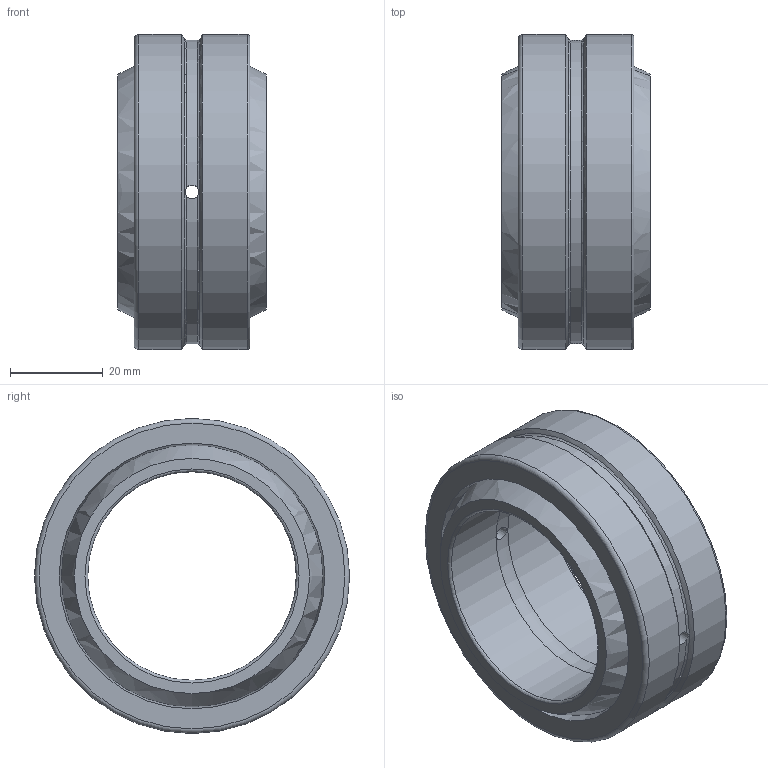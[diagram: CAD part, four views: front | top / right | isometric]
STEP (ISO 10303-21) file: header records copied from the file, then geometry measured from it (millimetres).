
FILE_DESCRIPTION(/* description */ (''),/* implementation_level */ '2;1');
FILE_NAME(/* name */ 'D:\moje\parametrické\GE--\GE--_\GE45E.stp',/* time_stamp */ '2016-08-17T13:59:22+02:00',/* author */ ('OUBALASKO'),/* organization */ (''),/* preprocessor_version */ 'ST-DEVELOPER v15.6',/* originating_system */ 'Autodesk Inventor 2015',/* authorisation */ '');
FILE_SCHEMA (('AUTOMOTIVE_DESIGN { 1 0 10303 214 3 1 1 }'));
Length unit declared in the file: millimetre
Products named in the file (3): GE45E-02; GE45E-01; GE45E
Assembly tree (2 placements, depth 2):
  GE45E
    GE45E-02
    GE45E-01
Bounding box: 32 x 68 x 68 mm (x, y, z)
Volume: 53208.8 mm3; surface area: 23715.2 mm2
Topology: 2 solids, 2 shells, 29 faces, 75 edges, 48 vertices
Faces by surface type: torus 10, cylinder 10, plane 4, sphere 3, cone 2
Full cylindrical faces by diameter (mm): 3 x4, 45 x2, 68 x2
Entity records: 1023 total; most frequent: CARTESIAN_POINT 392, DIRECTION 124, ORIENTED_EDGE 84, EDGE_LOOP 62, AXIS2_PLACEMENT_3D 62, EDGE_CURVE 42, VERTEX_POINT 38, FACE_BOUND 34
